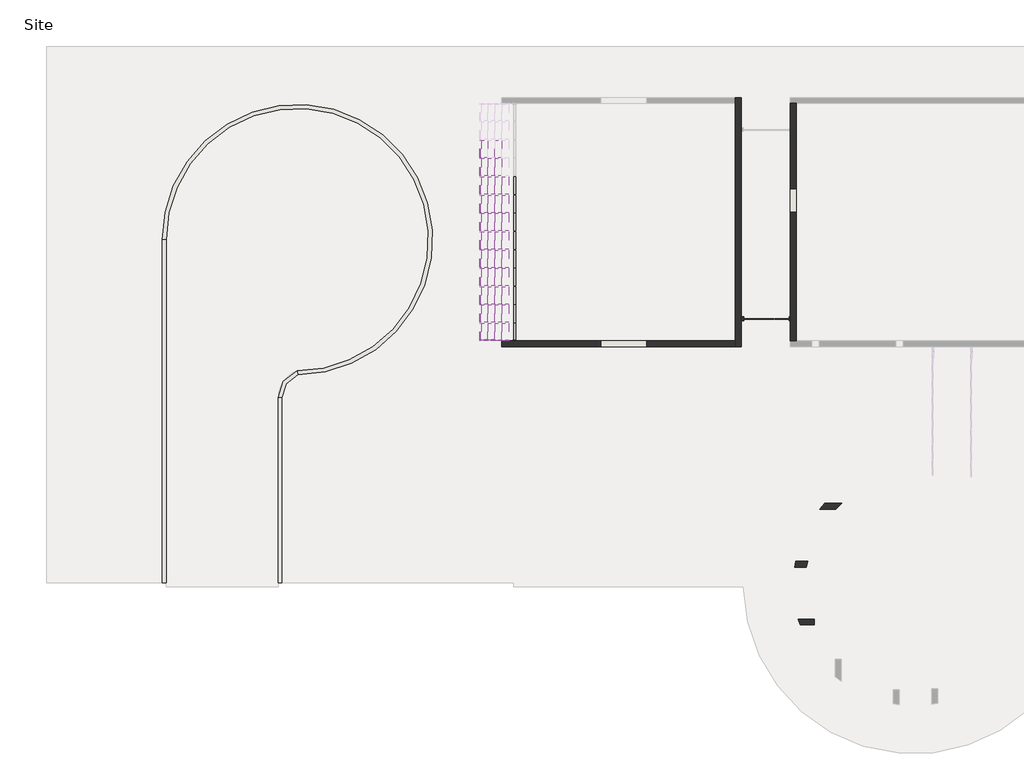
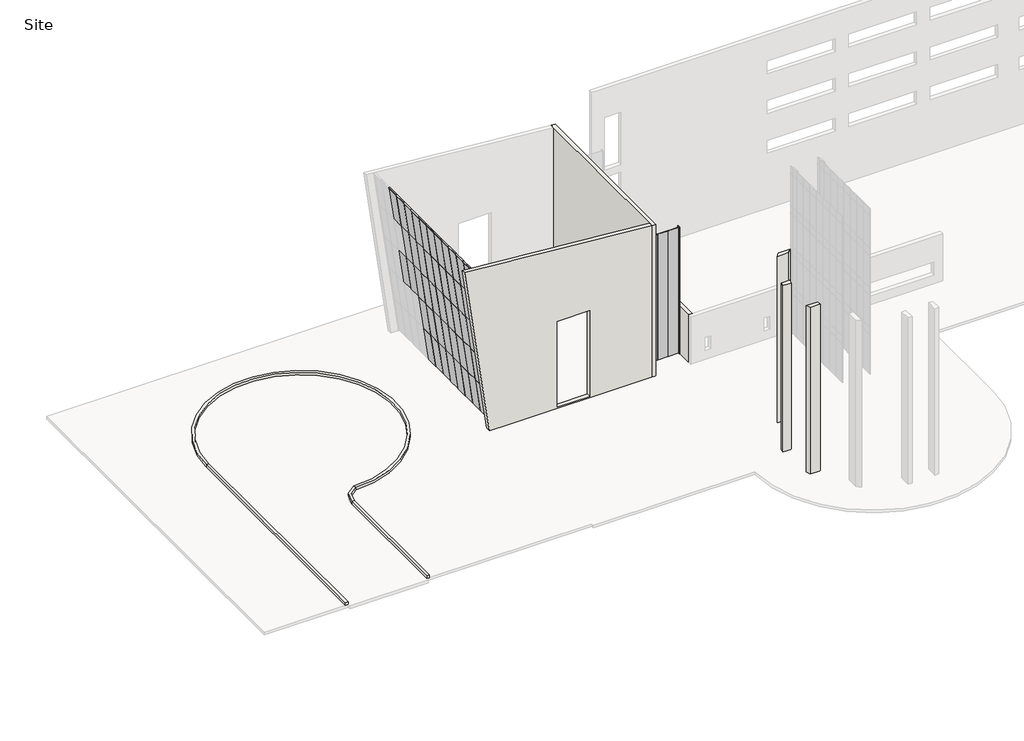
# One storey, part 1 of 4: 53 plates, 16 members, 12 walls.
"""IFC4 building model written with IfcOpenShell, lengths in millimetres."""

from ifc_helpers import new_model, si_unit, point, frame, frame_2d, origin, place, context, project, spatial, polyline, circle_curve, trimmed, segment, composite_curve, outline, extrude, faceted_brep, transform, mapped, element, save
from components import member_f8a9089e, member_5e02c13a, member_50cd645d, member_5d333a65, system_panel_glazed_21f2c726, system_panel_glazed_1400d148, system_panel_glazed_f91df05e, system_panel_glazed_78b5b18d

model = new_model("IFC4")

# Units and contexts
model_context = context("Model", 3, world=origin())
ifc_project = project(units=[si_unit("LENGTHUNIT", "METRE", prefix="MILLI")], contexts=[model_context])

# Site, building, storey
site = spatial("IfcSite", under=ifc_project)
building = spatial("IfcBuilding", under=site)
storey = spatial("IfcBuildingStorey", under=building, Name="Site", Elevation=-152.4)

# Members
placement = place(None, origin())
member_shape = member_f8a9089e(model_context)
element("IfcMember", 1, ObjectType="Rectangular Mullion1 : 2.5\" x 5\" rectangular", at=placement, inside=storey, context=model_context, shape_type="MappedRepresentation", body=[
    mapped(member_shape, transform((-27908.8595656, 38681.824389, 19574.3667708), x_axis=(-0.13917310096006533, 0.0, 0.9902680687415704), y_axis=(-0.9902680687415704, 0.0, -0.13917310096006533), z_axis=(0.0, -1.0, 0.0))),
])
member_2_shape = member_5e02c13a(model_context)
element("IfcMember", 2, ObjectType="Rectangular Mullion1 : 2.5\" x 5\" rectangular", at=placement, inside=storey, context=model_context, shape_type="MappedRepresentation", body=[
    mapped(member_2_shape, transform((-27908.8595656, 53088.9974658, 19574.3667708), x_axis=(-0.13917310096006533, 0.0, 0.9902680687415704), y_axis=(-0.9902680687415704, 0.0, -0.13917310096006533), z_axis=(0.0, -1.0, 0.0))),
])
element("IfcMember", 3, ObjectType="Rectangular Mullion1 : 2.5\" x 5\" rectangular", at=placement, inside=storey, context=model_context, shape_type="MappedRepresentation", body=[
    mapped(member_2_shape, transform((-27908.8595656, 51641.9301581, 19574.3667708), x_axis=(-0.13917310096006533, 0.0, 0.9902680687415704), y_axis=(-0.9902680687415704, 0.0, -0.13917310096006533), z_axis=(0.0, -1.0, 0.0))),
])
element("IfcMember", 4, ObjectType="Rectangular Mullion1 : 2.5\" x 5\" rectangular", at=placement, inside=storey, context=model_context, shape_type="MappedRepresentation", body=[
    mapped(member_2_shape, transform((-27908.8595656, 50194.8628505, 19574.3667708), x_axis=(-0.13917310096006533, 0.0, 0.9902680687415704), y_axis=(-0.9902680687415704, 0.0, -0.13917310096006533), z_axis=(0.0, -1.0, 0.0))),
])
element("IfcMember", 5, ObjectType="Rectangular Mullion1 : 2.5\" x 5\" rectangular", at=placement, inside=storey, context=model_context, shape_type="MappedRepresentation", body=[
    mapped(member_2_shape, transform((-27908.8595656, 48747.7955428, 19574.3667708), x_axis=(-0.13917310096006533, 0.0, 0.9902680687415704), y_axis=(-0.9902680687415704, 0.0, -0.13917310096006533), z_axis=(0.0, -1.0, 0.0))),
])
element("IfcMember", 6, ObjectType="Rectangular Mullion1 : 2.5\" x 5\" rectangular", at=placement, inside=storey, context=model_context, shape_type="MappedRepresentation", body=[
    mapped(member_2_shape, transform((-27908.8595656, 47300.7282352, 19574.3667708), x_axis=(-0.13917310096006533, 0.0, 0.9902680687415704), y_axis=(-0.9902680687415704, 0.0, -0.13917310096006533), z_axis=(0.0, -1.0, 0.0))),
])
element("IfcMember", 7, ObjectType="Rectangular Mullion1 : 2.5\" x 5\" rectangular", at=placement, inside=storey, context=model_context, shape_type="MappedRepresentation", body=[
    mapped(member_2_shape, transform((-27908.8595656, 45853.6609275, 19574.3667708), x_axis=(-0.13917310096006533, 0.0, 0.9902680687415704), y_axis=(-0.9902680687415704, 0.0, -0.13917310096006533), z_axis=(0.0, -1.0, 0.0))),
])
element("IfcMember", 8, ObjectType="Rectangular Mullion1 : 2.5\" x 5\" rectangular", at=placement, inside=storey, context=model_context, shape_type="MappedRepresentation", body=[
    mapped(member_2_shape, transform((-27908.8595656, 44406.5936199, 19574.3667708), x_axis=(-0.13917310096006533, 0.0, 0.9902680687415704), y_axis=(-0.9902680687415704, 0.0, -0.13917310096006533), z_axis=(0.0, -1.0, 0.0))),
])
element("IfcMember", 9, ObjectType="Rectangular Mullion1 : 2.5\" x 5\" rectangular", at=placement, inside=storey, context=model_context, shape_type="MappedRepresentation", body=[
    mapped(member_2_shape, transform((-27908.8595656, 42959.5263122, 19574.3667708), x_axis=(-0.13917310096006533, 0.0, 0.9902680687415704), y_axis=(-0.9902680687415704, 0.0, -0.13917310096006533), z_axis=(0.0, -1.0, 0.0))),
])
element("IfcMember", 10, ObjectType="Rectangular Mullion1 : 2.5\" x 5\" rectangular", at=placement, inside=storey, context=model_context, shape_type="MappedRepresentation", body=[
    mapped(member_2_shape, transform((-27908.8595656, 41512.4590046, 19574.3667708), x_axis=(-0.13917310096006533, 0.0, 0.9902680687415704), y_axis=(-0.9902680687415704, 0.0, -0.13917310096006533), z_axis=(0.0, -1.0, 0.0))),
])
element("IfcMember", 11, ObjectType="Rectangular Mullion1 : 2.5\" x 5\" rectangular", at=placement, inside=storey, context=model_context, shape_type="MappedRepresentation", body=[
    mapped(member_2_shape, transform((-27908.8595656, 40065.391697, 19574.3667708), x_axis=(-0.13917310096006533, 0.0, 0.9902680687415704), y_axis=(-0.9902680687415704, 0.0, -0.13917310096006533), z_axis=(0.0, -1.0, 0.0))),
])
member_3_shape = member_50cd645d(model_context)
element("IfcMember", 12, ObjectType="Rectangular Mullion1 : 2.5\" x 5\" rectangular", at=placement, inside=storey, context=model_context, shape_type="MappedRepresentation", body=[
    mapped(member_3_shape, transform((-25136.1948919, 38618.324389, -154.1674984), x_axis=(0.0, -1.0, 0.0), y_axis=(-0.99026806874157, 0.0, -0.1391731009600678), z_axis=(0.1391731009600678, 0.0, -0.99026806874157))),
])
member_4_shape = member_5d333a65(model_context)
element("IfcMember", 13, ObjectType="Rectangular Mullion1 : 2.5\" x 5\" rectangular", at=placement, inside=storey, context=model_context, shape_type="MappedRepresentation", body=[
    mapped(member_4_shape, transform((-25693.3790742, 38618.324389, 3810.4039622), x_axis=(0.0, -1.0, 0.0), y_axis=(-0.9902680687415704, 0.0, -0.13917310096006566), z_axis=(0.13917310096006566, 0.0, -0.9902680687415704))),
])
element("IfcMember", 14, ObjectType="Rectangular Mullion1 : 2.5\" x 5\" rectangular", at=placement, inside=storey, context=model_context, shape_type="MappedRepresentation", body=[
    mapped(member_4_shape, transform((-26246.1445106, 38618.324389, 7743.5344115), x_axis=(0.0, -1.0, 0.0), y_axis=(-0.9902680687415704, 0.0, -0.13917310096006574), z_axis=(0.13917310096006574, 0.0, -0.9902680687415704))),
])
element("IfcMember", 15, ObjectType="Rectangular Mullion1 : 2.5\" x 5\" rectangular", at=placement, inside=storey, context=model_context, shape_type="MappedRepresentation", body=[
    mapped(member_4_shape, transform((-26798.9099469, 38618.324389, 11676.6648609), x_axis=(0.0, -1.0, 0.0), y_axis=(-0.9902680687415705, 0.0, -0.13917310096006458), z_axis=(0.13917310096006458, 0.0, -0.9902680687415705))),
])
element("IfcMember", 16, ObjectType="Rectangular Mullion1 : 2.5\" x 5\" rectangular", at=placement, inside=storey, context=model_context, shape_type="MappedRepresentation", body=[
    mapped(member_3_shape, transform((-27351.6753833, 38618.324389, 15609.7953102), x_axis=(0.0, -1.0, 0.0), y_axis=(-0.9902680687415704, 0.0, -0.13917310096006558), z_axis=(0.13917310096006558, 0.0, -0.9902680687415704))),
])

# Plates
system_panel_glazed_shape = system_panel_glazed_21f2c726(model_context)
element("IfcPlate", 17, ObjectType="System Panel : Glazed", at=placement, inside=storey, context=model_context, shape_type="MappedRepresentation", body=[
    mapped(system_panel_glazed_shape, transform((-4114.5553134, 40372.511889, -88.9), x_axis=(-1.0, 0.0, 0.0), y_axis=(0.0, -1.0, 0.0), z_axis=(0.0, 0.0, 1.0))),
])
element("IfcPlate", 18, ObjectType="System Panel : Glazed", at=placement, inside=storey, context=model_context, shape_type="MappedRepresentation", body=[
    mapped(system_panel_glazed_shape, transform((-6487.0857008, 40372.511889, -88.9), x_axis=(-1.0, 0.0, 0.0), y_axis=(0.0, -1.0, 0.0), z_axis=(0.0, 0.0, 1.0))),
])
system_panel_glazed_2_shape = system_panel_glazed_1400d148(model_context)
element("IfcPlate", 19, ObjectType="System Panel : Glazed", at=placement, inside=storey, context=model_context, shape_type="MappedRepresentation", body=[
    mapped(system_panel_glazed_2_shape, transform((-5300.8205071, 40372.511889, -88.9), x_axis=(-1.0, 0.0, 0.0), y_axis=(0.0, -1.0, 0.0), z_axis=(0.0, 0.0, 1.0))),
])
system_panel_glazed_3_shape = system_panel_glazed_f91df05e(model_context)
element("IfcPlate", 20, ObjectType="System Panel : Glazed", at=placement, inside=storey, context=model_context, shape_type="MappedRepresentation", body=[
    mapped(system_panel_glazed_3_shape, transform((-25145.0323838, 39341.858043, -91.285476), x_axis=(0.0, -1.0, 0.0), y_axis=(0.9902680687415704, 0.0, 0.13917310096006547), z_axis=(-0.13917310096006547, 0.0, 0.9902680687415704))),
])
element("IfcPlate", 21, ObjectType="System Panel : Glazed", at=placement, inside=storey, context=model_context, shape_type="MappedRepresentation", body=[
    mapped(system_panel_glazed_3_shape, transform((-25697.7978202, 39341.858043, 3841.8449733), x_axis=(0.0, -1.0, 0.0), y_axis=(0.9902680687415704, 0.0, 0.13917310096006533), z_axis=(-0.13917310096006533, 0.0, 0.9902680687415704))),
])
element("IfcPlate", 22, ObjectType="System Panel : Glazed", at=placement, inside=storey, context=model_context, shape_type="MappedRepresentation", body=[
    mapped(system_panel_glazed_3_shape, transform((-26250.5632565, 39341.858043, 7774.9754227), x_axis=(0.0, -1.0, 0.0), y_axis=(0.9902680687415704, 0.0, 0.13917310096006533), z_axis=(-0.13917310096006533, 0.0, 0.9902680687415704))),
])
element("IfcPlate", 23, ObjectType="System Panel : Glazed", at=placement, inside=storey, context=model_context, shape_type="MappedRepresentation", body=[
    mapped(system_panel_glazed_3_shape, transform((-26803.3286929, 39341.858043, 11708.105872), x_axis=(0.0, -1.0, 0.0), y_axis=(0.9902680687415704, 0.0, 0.13917310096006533), z_axis=(-0.13917310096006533, 0.0, 0.9902680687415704))),
])
element("IfcPlate", 24, ObjectType="System Panel : Glazed", at=placement, inside=storey, context=model_context, shape_type="MappedRepresentation", body=[
    mapped(system_panel_glazed_3_shape, transform((-27356.0941292, 39341.858043, 15641.2363214), x_axis=(0.0, -1.0, 0.0), y_axis=(0.9902680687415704, 0.0, 0.13917310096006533), z_axis=(-0.13917310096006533, 0.0, 0.9902680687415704))),
])
system_panel_glazed_4_shape = system_panel_glazed_78b5b18d(model_context)
element("IfcPlate", 25, ObjectType="System Panel : Glazed", at=placement, inside=storey, context=model_context, shape_type="MappedRepresentation", body=[
    mapped(system_panel_glazed_4_shape, transform((-25145.0323838, 50886.6465043, -91.285476), x_axis=(0.0, -1.0, 0.0), y_axis=(0.9902680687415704, 0.0, 0.13917310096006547), z_axis=(-0.13917310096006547, 0.0, 0.9902680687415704))),
])
element("IfcPlate", 26, ObjectType="System Panel : Glazed", at=placement, inside=storey, context=model_context, shape_type="MappedRepresentation", body=[
    mapped(system_panel_glazed_4_shape, transform((-25145.0323838, 49439.5791967, -91.285476), x_axis=(0.0, -1.0, 0.0), y_axis=(0.9902680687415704, 0.0, 0.13917310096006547), z_axis=(-0.13917310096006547, 0.0, 0.9902680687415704))),
])
element("IfcPlate", 27, ObjectType="System Panel : Glazed", at=placement, inside=storey, context=model_context, shape_type="MappedRepresentation", body=[
    mapped(system_panel_glazed_4_shape, transform((-25145.0323838, 47992.511889, -91.285476), x_axis=(0.0, -1.0, 0.0), y_axis=(0.9902680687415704, 0.0, 0.13917310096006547), z_axis=(-0.13917310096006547, 0.0, 0.9902680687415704))),
])
element("IfcPlate", 28, ObjectType="System Panel : Glazed", at=placement, inside=storey, context=model_context, shape_type="MappedRepresentation", body=[
    mapped(system_panel_glazed_4_shape, transform((-25145.0323838, 46545.4445814, -91.285476), x_axis=(0.0, -1.0, 0.0), y_axis=(0.9902680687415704, 0.0, 0.13917310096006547), z_axis=(-0.13917310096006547, 0.0, 0.9902680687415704))),
])
element("IfcPlate", 29, ObjectType="System Panel : Glazed", at=placement, inside=storey, context=model_context, shape_type="MappedRepresentation", body=[
    mapped(system_panel_glazed_4_shape, transform((-25145.0323838, 45098.3772737, -91.285476), x_axis=(0.0, -1.0, 0.0), y_axis=(0.9902680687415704, 0.0, 0.13917310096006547), z_axis=(-0.13917310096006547, 0.0, 0.9902680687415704))),
])
element("IfcPlate", 30, ObjectType="System Panel : Glazed", at=placement, inside=storey, context=model_context, shape_type="MappedRepresentation", body=[
    mapped(system_panel_glazed_4_shape, transform((-25145.0323838, 43651.3099661, -91.285476), x_axis=(0.0, -1.0, 0.0), y_axis=(0.9902680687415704, 0.0, 0.13917310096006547), z_axis=(-0.13917310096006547, 0.0, 0.9902680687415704))),
])
element("IfcPlate", 31, ObjectType="System Panel : Glazed", at=placement, inside=storey, context=model_context, shape_type="MappedRepresentation", body=[
    mapped(system_panel_glazed_4_shape, transform((-25145.0323838, 42204.2426584, -91.285476), x_axis=(0.0, -1.0, 0.0), y_axis=(0.9902680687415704, 0.0, 0.13917310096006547), z_axis=(-0.13917310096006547, 0.0, 0.9902680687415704))),
])
element("IfcPlate", 32, ObjectType="System Panel : Glazed", at=placement, inside=storey, context=model_context, shape_type="MappedRepresentation", body=[
    mapped(system_panel_glazed_4_shape, transform((-25145.0323838, 40757.1753508, -91.285476), x_axis=(0.0, -1.0, 0.0), y_axis=(0.9902680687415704, 0.0, 0.13917310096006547), z_axis=(-0.13917310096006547, 0.0, 0.9902680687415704))),
])
element("IfcPlate", 33, ObjectType="System Panel : Glazed", at=placement, inside=storey, context=model_context, shape_type="MappedRepresentation", body=[
    mapped(system_panel_glazed_4_shape, transform((-25697.7978202, 50886.6465043, 3841.8449733), x_axis=(0.0, -1.0, 0.0), y_axis=(0.9902680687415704, 0.0, 0.13917310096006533), z_axis=(-0.13917310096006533, 0.0, 0.9902680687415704))),
])
element("IfcPlate", 34, ObjectType="System Panel : Glazed", at=placement, inside=storey, context=model_context, shape_type="MappedRepresentation", body=[
    mapped(system_panel_glazed_4_shape, transform((-25697.7978202, 49439.5791967, 3841.8449733), x_axis=(0.0, -1.0, 0.0), y_axis=(0.9902680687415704, 0.0, 0.13917310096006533), z_axis=(-0.13917310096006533, 0.0, 0.9902680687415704))),
])
element("IfcPlate", 35, ObjectType="System Panel : Glazed", at=placement, inside=storey, context=model_context, shape_type="MappedRepresentation", body=[
    mapped(system_panel_glazed_4_shape, transform((-25697.7978202, 47992.511889, 3841.8449733), x_axis=(0.0, -1.0, 0.0), y_axis=(0.9902680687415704, 0.0, 0.13917310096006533), z_axis=(-0.13917310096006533, 0.0, 0.9902680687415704))),
])
element("IfcPlate", 36, ObjectType="System Panel : Glazed", at=placement, inside=storey, context=model_context, shape_type="MappedRepresentation", body=[
    mapped(system_panel_glazed_4_shape, transform((-25697.7978202, 46545.4445814, 3841.8449733), x_axis=(0.0, -1.0, 0.0), y_axis=(0.9902680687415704, 0.0, 0.13917310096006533), z_axis=(-0.13917310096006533, 0.0, 0.9902680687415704))),
])
element("IfcPlate", 37, ObjectType="System Panel : Glazed", at=placement, inside=storey, context=model_context, shape_type="MappedRepresentation", body=[
    mapped(system_panel_glazed_4_shape, transform((-25697.7978202, 45098.3772737, 3841.8449733), x_axis=(0.0, -1.0, 0.0), y_axis=(0.9902680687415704, 0.0, 0.13917310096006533), z_axis=(-0.13917310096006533, 0.0, 0.9902680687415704))),
])
element("IfcPlate", 38, ObjectType="System Panel : Glazed", at=placement, inside=storey, context=model_context, shape_type="MappedRepresentation", body=[
    mapped(system_panel_glazed_4_shape, transform((-25697.7978202, 43651.3099661, 3841.8449733), x_axis=(0.0, -1.0, 0.0), y_axis=(0.9902680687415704, 0.0, 0.13917310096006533), z_axis=(-0.13917310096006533, 0.0, 0.9902680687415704))),
])
element("IfcPlate", 39, ObjectType="System Panel : Glazed", at=placement, inside=storey, context=model_context, shape_type="MappedRepresentation", body=[
    mapped(system_panel_glazed_4_shape, transform((-25697.7978202, 42204.2426584, 3841.8449733), x_axis=(0.0, -1.0, 0.0), y_axis=(0.9902680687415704, 0.0, 0.13917310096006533), z_axis=(-0.13917310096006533, 0.0, 0.9902680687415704))),
])
element("IfcPlate", 40, ObjectType="System Panel : Glazed", at=placement, inside=storey, context=model_context, shape_type="MappedRepresentation", body=[
    mapped(system_panel_glazed_4_shape, transform((-25697.7978202, 40757.1753508, 3841.8449733), x_axis=(0.0, -1.0, 0.0), y_axis=(0.9902680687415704, 0.0, 0.13917310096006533), z_axis=(-0.13917310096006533, 0.0, 0.9902680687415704))),
])
element("IfcPlate", 41, ObjectType="System Panel : Glazed", at=placement, inside=storey, context=model_context, shape_type="MappedRepresentation", body=[
    mapped(system_panel_glazed_4_shape, transform((-26250.5632565, 53780.7811196, 7774.9754227), x_axis=(0.0, -1.0, 0.0), y_axis=(0.9902680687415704, 0.0, 0.13917310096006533), z_axis=(-0.13917310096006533, 0.0, 0.9902680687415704))),
])
element("IfcPlate", 42, ObjectType="System Panel : Glazed", at=placement, inside=storey, context=model_context, shape_type="MappedRepresentation", body=[
    mapped(system_panel_glazed_4_shape, transform((-26250.5632565, 52333.7138119, 7774.9754227), x_axis=(0.0, -1.0, 0.0), y_axis=(0.9902680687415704, 0.0, 0.13917310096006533), z_axis=(-0.13917310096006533, 0.0, 0.9902680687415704))),
])
element("IfcPlate", 43, ObjectType="System Panel : Glazed", at=placement, inside=storey, context=model_context, shape_type="MappedRepresentation", body=[
    mapped(system_panel_glazed_4_shape, transform((-26250.5632565, 50886.6465043, 7774.9754227), x_axis=(0.0, -1.0, 0.0), y_axis=(0.9902680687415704, 0.0, 0.13917310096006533), z_axis=(-0.13917310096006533, 0.0, 0.9902680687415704))),
])
element("IfcPlate", 44, ObjectType="System Panel : Glazed", at=placement, inside=storey, context=model_context, shape_type="MappedRepresentation", body=[
    mapped(system_panel_glazed_4_shape, transform((-26250.5632565, 49439.5791967, 7774.9754227), x_axis=(0.0, -1.0, 0.0), y_axis=(0.9902680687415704, 0.0, 0.13917310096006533), z_axis=(-0.13917310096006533, 0.0, 0.9902680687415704))),
])
element("IfcPlate", 45, ObjectType="System Panel : Glazed", at=placement, inside=storey, context=model_context, shape_type="MappedRepresentation", body=[
    mapped(system_panel_glazed_4_shape, transform((-26250.5632565, 47992.511889, 7774.9754227), x_axis=(0.0, -1.0, 0.0), y_axis=(0.9902680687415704, 0.0, 0.13917310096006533), z_axis=(-0.13917310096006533, 0.0, 0.9902680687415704))),
])
element("IfcPlate", 46, ObjectType="System Panel : Glazed", at=placement, inside=storey, context=model_context, shape_type="MappedRepresentation", body=[
    mapped(system_panel_glazed_4_shape, transform((-26250.5632565, 46545.4445814, 7774.9754227), x_axis=(0.0, -1.0, 0.0), y_axis=(0.9902680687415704, 0.0, 0.13917310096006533), z_axis=(-0.13917310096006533, 0.0, 0.9902680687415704))),
])
element("IfcPlate", 47, ObjectType="System Panel : Glazed", at=placement, inside=storey, context=model_context, shape_type="MappedRepresentation", body=[
    mapped(system_panel_glazed_4_shape, transform((-26250.5632565, 45098.3772737, 7774.9754227), x_axis=(0.0, -1.0, 0.0), y_axis=(0.9902680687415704, 0.0, 0.13917310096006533), z_axis=(-0.13917310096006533, 0.0, 0.9902680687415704))),
])
element("IfcPlate", 48, ObjectType="System Panel : Glazed", at=placement, inside=storey, context=model_context, shape_type="MappedRepresentation", body=[
    mapped(system_panel_glazed_4_shape, transform((-26250.5632565, 43651.3099661, 7774.9754227), x_axis=(0.0, -1.0, 0.0), y_axis=(0.9902680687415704, 0.0, 0.13917310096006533), z_axis=(-0.13917310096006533, 0.0, 0.9902680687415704))),
])
element("IfcPlate", 49, ObjectType="System Panel : Glazed", at=placement, inside=storey, context=model_context, shape_type="MappedRepresentation", body=[
    mapped(system_panel_glazed_4_shape, transform((-26250.5632565, 42204.2426584, 7774.9754227), x_axis=(0.0, -1.0, 0.0), y_axis=(0.9902680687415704, 0.0, 0.13917310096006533), z_axis=(-0.13917310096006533, 0.0, 0.9902680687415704))),
])
element("IfcPlate", 50, ObjectType="System Panel : Glazed", at=placement, inside=storey, context=model_context, shape_type="MappedRepresentation", body=[
    mapped(system_panel_glazed_4_shape, transform((-26250.5632565, 40757.1753508, 7774.9754227), x_axis=(0.0, -1.0, 0.0), y_axis=(0.9902680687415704, 0.0, 0.13917310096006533), z_axis=(-0.13917310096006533, 0.0, 0.9902680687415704))),
])
element("IfcPlate", 51, ObjectType="System Panel : Glazed", at=placement, inside=storey, context=model_context, shape_type="MappedRepresentation", body=[
    mapped(system_panel_glazed_4_shape, transform((-26803.3286929, 52333.7138119, 11708.105872), x_axis=(0.0, -1.0, 0.0), y_axis=(0.9902680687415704, 0.0, 0.13917310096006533), z_axis=(-0.13917310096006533, 0.0, 0.9902680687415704))),
])
element("IfcPlate", 52, ObjectType="System Panel : Glazed", at=placement, inside=storey, context=model_context, shape_type="MappedRepresentation", body=[
    mapped(system_panel_glazed_4_shape, transform((-26803.3286929, 50886.6465043, 11708.105872), x_axis=(0.0, -1.0, 0.0), y_axis=(0.9902680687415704, 0.0, 0.13917310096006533), z_axis=(-0.13917310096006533, 0.0, 0.9902680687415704))),
])
element("IfcPlate", 53, ObjectType="System Panel : Glazed", at=placement, inside=storey, context=model_context, shape_type="MappedRepresentation", body=[
    mapped(system_panel_glazed_4_shape, transform((-26803.3286929, 49439.5791967, 11708.105872), x_axis=(0.0, -1.0, 0.0), y_axis=(0.9902680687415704, 0.0, 0.13917310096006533), z_axis=(-0.13917310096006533, 0.0, 0.9902680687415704))),
])
element("IfcPlate", 54, ObjectType="System Panel : Glazed", at=placement, inside=storey, context=model_context, shape_type="MappedRepresentation", body=[
    mapped(system_panel_glazed_4_shape, transform((-26803.3286929, 47992.511889, 11708.105872), x_axis=(0.0, -1.0, 0.0), y_axis=(0.9902680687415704, 0.0, 0.13917310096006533), z_axis=(-0.13917310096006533, 0.0, 0.9902680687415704))),
])
element("IfcPlate", 55, ObjectType="System Panel : Glazed", at=placement, inside=storey, context=model_context, shape_type="MappedRepresentation", body=[
    mapped(system_panel_glazed_4_shape, transform((-26803.3286929, 46545.4445814, 11708.105872), x_axis=(0.0, -1.0, 0.0), y_axis=(0.9902680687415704, 0.0, 0.13917310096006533), z_axis=(-0.13917310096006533, 0.0, 0.9902680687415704))),
])
element("IfcPlate", 56, ObjectType="System Panel : Glazed", at=placement, inside=storey, context=model_context, shape_type="MappedRepresentation", body=[
    mapped(system_panel_glazed_4_shape, transform((-26803.3286929, 45098.3772737, 11708.105872), x_axis=(0.0, -1.0, 0.0), y_axis=(0.9902680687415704, 0.0, 0.13917310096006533), z_axis=(-0.13917310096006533, 0.0, 0.9902680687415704))),
])
element("IfcPlate", 57, ObjectType="System Panel : Glazed", at=placement, inside=storey, context=model_context, shape_type="MappedRepresentation", body=[
    mapped(system_panel_glazed_4_shape, transform((-26803.3286929, 43651.3099661, 11708.105872), x_axis=(0.0, -1.0, 0.0), y_axis=(0.9902680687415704, 0.0, 0.13917310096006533), z_axis=(-0.13917310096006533, 0.0, 0.9902680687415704))),
])
element("IfcPlate", 58, ObjectType="System Panel : Glazed", at=placement, inside=storey, context=model_context, shape_type="MappedRepresentation", body=[
    mapped(system_panel_glazed_4_shape, transform((-26803.3286929, 42204.2426584, 11708.105872), x_axis=(0.0, -1.0, 0.0), y_axis=(0.9902680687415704, 0.0, 0.13917310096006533), z_axis=(-0.13917310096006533, 0.0, 0.9902680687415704))),
])
element("IfcPlate", 59, ObjectType="System Panel : Glazed", at=placement, inside=storey, context=model_context, shape_type="MappedRepresentation", body=[
    mapped(system_panel_glazed_4_shape, transform((-26803.3286929, 40757.1753508, 11708.105872), x_axis=(0.0, -1.0, 0.0), y_axis=(0.9902680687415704, 0.0, 0.13917310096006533), z_axis=(-0.13917310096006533, 0.0, 0.9902680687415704))),
])
element("IfcPlate", 60, ObjectType="System Panel : Glazed", at=placement, inside=storey, context=model_context, shape_type="MappedRepresentation", body=[
    mapped(system_panel_glazed_4_shape, transform((-27356.0941292, 53780.7811196, 15641.2363214), x_axis=(0.0, -1.0, 0.0), y_axis=(0.9902680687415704, 0.0, 0.13917310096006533), z_axis=(-0.13917310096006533, 0.0, 0.9902680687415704))),
])
element("IfcPlate", 61, ObjectType="System Panel : Glazed", at=placement, inside=storey, context=model_context, shape_type="MappedRepresentation", body=[
    mapped(system_panel_glazed_4_shape, transform((-27356.0941292, 52333.7138119, 15641.2363214), x_axis=(0.0, -1.0, 0.0), y_axis=(0.9902680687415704, 0.0, 0.13917310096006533), z_axis=(-0.13917310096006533, 0.0, 0.9902680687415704))),
])
element("IfcPlate", 62, ObjectType="System Panel : Glazed", at=placement, inside=storey, context=model_context, shape_type="MappedRepresentation", body=[
    mapped(system_panel_glazed_4_shape, transform((-27356.0941292, 50886.6465043, 15641.2363214), x_axis=(0.0, -1.0, 0.0), y_axis=(0.9902680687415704, 0.0, 0.13917310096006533), z_axis=(-0.13917310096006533, 0.0, 0.9902680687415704))),
])
element("IfcPlate", 63, ObjectType="System Panel : Glazed", at=placement, inside=storey, context=model_context, shape_type="MappedRepresentation", body=[
    mapped(system_panel_glazed_4_shape, transform((-27356.0941292, 49439.5791967, 15641.2363214), x_axis=(0.0, -1.0, 0.0), y_axis=(0.9902680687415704, 0.0, 0.13917310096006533), z_axis=(-0.13917310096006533, 0.0, 0.9902680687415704))),
])
element("IfcPlate", 64, ObjectType="System Panel : Glazed", at=placement, inside=storey, context=model_context, shape_type="MappedRepresentation", body=[
    mapped(system_panel_glazed_4_shape, transform((-27356.0941292, 47992.511889, 15641.2363214), x_axis=(0.0, -1.0, 0.0), y_axis=(0.9902680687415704, 0.0, 0.13917310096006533), z_axis=(-0.13917310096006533, 0.0, 0.9902680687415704))),
])
element("IfcPlate", 65, ObjectType="System Panel : Glazed", at=placement, inside=storey, context=model_context, shape_type="MappedRepresentation", body=[
    mapped(system_panel_glazed_4_shape, transform((-27356.0941292, 46545.4445814, 15641.2363214), x_axis=(0.0, -1.0, 0.0), y_axis=(0.9902680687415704, 0.0, 0.13917310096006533), z_axis=(-0.13917310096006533, 0.0, 0.9902680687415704))),
])
element("IfcPlate", 66, ObjectType="System Panel : Glazed", at=placement, inside=storey, context=model_context, shape_type="MappedRepresentation", body=[
    mapped(system_panel_glazed_4_shape, transform((-27356.0941292, 45098.3772737, 15641.2363214), x_axis=(0.0, -1.0, 0.0), y_axis=(0.9902680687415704, 0.0, 0.13917310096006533), z_axis=(-0.13917310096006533, 0.0, 0.9902680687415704))),
])
element("IfcPlate", 67, ObjectType="System Panel : Glazed", at=placement, inside=storey, context=model_context, shape_type="MappedRepresentation", body=[
    mapped(system_panel_glazed_4_shape, transform((-27356.0941292, 43651.3099661, 15641.2363214), x_axis=(0.0, -1.0, 0.0), y_axis=(0.9902680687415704, 0.0, 0.13917310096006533), z_axis=(-0.13917310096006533, 0.0, 0.9902680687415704))),
])
element("IfcPlate", 68, ObjectType="System Panel : Glazed", at=placement, inside=storey, context=model_context, shape_type="MappedRepresentation", body=[
    mapped(system_panel_glazed_4_shape, transform((-27356.0941292, 42204.2426584, 15641.2363214), x_axis=(0.0, -1.0, 0.0), y_axis=(0.9902680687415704, 0.0, 0.13917310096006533), z_axis=(-0.13917310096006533, 0.0, 0.9902680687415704))),
])
element("IfcPlate", 69, ObjectType="System Panel : Glazed", at=placement, inside=storey, context=model_context, shape_type="MappedRepresentation", body=[
    mapped(system_panel_glazed_4_shape, transform((-27356.0941292, 40757.1753508, 15641.2363214), x_axis=(0.0, -1.0, 0.0), y_axis=(0.9902680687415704, 0.0, 0.13917310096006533), z_axis=(-0.13917310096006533, 0.0, 0.9902680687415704))),
])

# Walls
element("IfcWall", 70, ObjectType="Generic - 12\"", at=placement, inside=storey, context=model_context, shape_type="SweptSolid", body=[
    extrude(outline(polyline([(-52722.4307976, 46620.911889), (-52722.4307976, 19493.711889), (-53027.2307976, 19493.711889), (-53027.2307976, 46620.911889), (-52722.4307976, 46620.911889)])), frame((0.0, 0.0, -152.4), z_axis=(0.0, 0.0, 1.0), x_axis=(1.0, 0.0, 0.0)), (0.0, 0.0, 1.0), 304.8),
])
element("IfcWall", 71, ObjectType="Generic - 12\"", at=placement, inside=storey, context=model_context, shape_type="SweptSolid", body=[
    extrude(outline(composite_curve([segment(polyline([(-42332.6379779, 35952.9450339), (-42384.6461103, 36257.743054)]), True, "CONTINUOUS"), segment(trimmed(circle_curve(frame_2d((-42359.2307976, 46620.911889)), 10363.2), [point((-42384.6461103, 36257.743054))], [point((-52722.4307976, 46620.911889))], True, "CARTESIAN"), True, "CONTINUOUS"), segment(polyline([(-52722.4307976, 46620.911889), (-53027.2307976, 46620.911889)]), True, "CONTINUOUS"), segment(trimmed(circle_curve(frame_2d((-42359.2307976, 46620.911889)), 10668.0), [point((-53027.2307976, 46620.911889))], [point((-42332.6379779, 35952.9450339))], False, "CARTESIAN"), True, "CONTINUOUS")], self_intersect=False)), frame((0.0, 0.0, -152.4), z_axis=(0.0, 0.0, 1.0), x_axis=(1.0, 0.0, 0.0)), (0.0, 0.0, 1.0), 304.8),
])
element("IfcWall", 72, ObjectType="Generic - 12\"", at=placement, inside=storey, context=model_context, shape_type="SweptSolid", body=[
    extrude(outline(polyline([(-43578.4307976, 34125.8154666), (-43578.4307976, 19493.711889), (-43883.2307976, 19493.711889), (-43883.2307976, 34122.4704857), (-43578.4307976, 34125.8154666)])), frame((0.0, 0.0, -152.4), z_axis=(0.0, 0.0, 1.0), x_axis=(1.0, 0.0, 0.0)), (0.0, 0.0, 1.0), 304.8),
])
element("IfcWall", 73, ObjectType="Generic - 12\"", at=placement, inside=storey, context=model_context, shape_type="SweptSolid", body=[
    extrude(outline(composite_curve([segment(polyline([(-43578.4307976, 34125.8154666), (-43883.2307976, 34122.4704857)]), True, "CONTINUOUS"), segment(trimmed(circle_curve(frame_2d((-41679.1721267, 34169.1174245)), 2204.5522361), [point((-43883.2307976, 34122.4704857))], [point((-42384.6461103, 36257.743054))], False, "CARTESIAN"), True, "CONTINUOUS"), segment(polyline([(-42384.6461103, 36257.743054), (-42332.6379779, 35952.9450339)]), True, "CONTINUOUS"), segment(trimmed(circle_curve(frame_2d((-41679.1721267, 34169.1174245)), 1899.7522361), [point((-42332.6379779, 35952.9450339))], [point((-43578.4307976, 34125.8154666))], True, "CARTESIAN"), True, "CONTINUOUS")], self_intersect=False)), frame((0.0, 0.0, -152.4), z_axis=(0.0, 0.0, 1.0), x_axis=(1.0, 0.0, 0.0)), (0.0, 0.0, 1.0), 304.8),
])
element("IfcWall", 74, ObjectType="Stone on CMU", at=placement, inside=storey, context=model_context, shape_type="SweptSolid", body=[
    extrude(outline(composite_curve([segment(polyline([(-697.0922024, 25777.9642299), (622.698389, 25777.9642299)]), True, "CONTINUOUS"), segment(trimmed(circle_curve(frame_2d((6332.5692024, 19341.311889)), 8604.25), [point((622.698389, 25777.9642299))], [point((148.6151143, 25323.9392299))], True, "CARTESIAN"), True, "CONTINUOUS"), segment(polyline([(148.6151143, 25323.9392299), (-1087.3231771, 25323.9392299)]), True, "CONTINUOUS"), segment(trimmed(circle_curve(frame_2d((6332.5692024, 19341.311889)), 9531.35), [point((-1087.3231771, 25323.9392299))], [point((-697.0922024, 25777.9642299))], False, "CARTESIAN"), True, "CONTINUOUS")], self_intersect=False)), frame((0.0, 0.0, -152.4), z_axis=(0.0, 0.0, 1.0), x_axis=(1.0, 0.0, 0.0)), (0.0, 0.0, 1.0), 19812.0),
])
element("IfcWall", 75, ObjectType="Stone on CMU", at=placement, inside=storey, context=model_context, shape_type="SweptSolid", body=[
    extrude(outline(composite_curve([segment(polyline([(-2806.1889997, 16633.9642299), (-1519.0200926, 16633.9642299), (-1519.0200926, 16179.9392299), (-2659.2245971, 16179.9392299)]), True, "CONTINUOUS"), segment(trimmed(circle_curve(frame_2d((6332.5692024, 19341.311889)), 9531.35), [point((-2659.2245971, 16179.9392299))], [point((-2806.1889997, 16633.9642299))], False, "CARTESIAN"), True, "CONTINUOUS")], self_intersect=False)), frame((0.0, 0.0, -152.4), z_axis=(0.0, 0.0, 1.0), x_axis=(1.0, 0.0, 0.0)), (0.0, 0.0, 1.0), 19812.0),
])
element("IfcWall", 76, ObjectType="Stone on CMU", at=placement, inside=storey, context=model_context, shape_type="SweptSolid", body=[
    extrude(outline(composite_curve([segment(polyline([(-3014.6070809, 21205.9642299), (-2067.2039916, 21205.9642299)]), True, "CONTINUOUS"), segment(trimmed(circle_curve(frame_2d((6332.5692024, 19341.311889)), 8604.25), [point((-2067.2039916, 21205.9642299))], [point((-2155.2602356, 20751.9392299))], True, "CARTESIAN"), True, "CONTINUOUS"), segment(polyline([(-2155.2602356, 20751.9392299), (-3093.8173443, 20751.9392299)]), True, "CONTINUOUS"), segment(trimmed(circle_curve(frame_2d((6332.5692024, 19341.311889)), 9531.35), [point((-3093.8173443, 20751.9392299))], [point((-3014.6070809, 21205.9642299))], False, "CARTESIAN"), True, "CONTINUOUS")], self_intersect=False)), frame((0.0, 0.0, -152.4), z_axis=(0.0, 0.0, 1.0), x_axis=(1.0, 0.0, 0.0)), (0.0, 0.0, 1.0), 19812.0),
])
element("IfcWall", 77, ObjectType="Stone on CMU", at=placement, inside=storey, context=model_context, shape_type="Brep", body=[
    faceted_brep([(-2965.7977165, 38618.324389, -152.4), (-2965.7977165, 57366.699389, -152.4), (-2965.7977165, 57366.699389, 5486.4), (-2965.7977165, 50621.411889, 5486.4), (-2965.7977165, 48792.611889, 5486.4), (-2965.7977165, 38618.324389, 5486.4), (-2965.7977165, 50621.411889, 0.0), (-2965.7977165, 48792.611889, 0.0), (-2965.7977165, 48792.611889, 2133.6), (-2965.7977165, 50621.411889, 2133.6), (-3419.8227165, 38618.324389, -152.4), (-3419.8227165, 38618.324389, 5486.4), (-3419.8227165, 48792.611889, 5486.4), (-3419.8227165, 50621.411889, 5486.4), (-3419.8227165, 57366.699389, 5486.4), (-3419.8227165, 57366.699389, -152.4), (-3419.8227165, 50621.411889, 0.0), (-3419.8227165, 50621.411889, 2133.6), (-3419.8227165, 48792.611889, 2133.6), (-3419.8227165, 48792.611889, 0.0)], [[[0, 1, 2, 3, 4, 5], [6, 7, 8, 9]], [[10, 11, 12, 13, 14, 15], [16, 17, 18, 19]], [[1, 0, 10, 15]], [[5, 4, 3, 2, 14, 13, 12, 11]], [[0, 5, 11, 10]], [[2, 1, 15, 14]], [[17, 16, 6, 9]], [[18, 17, 9, 8]], [[19, 18, 8, 7]], [[16, 19, 7, 6]]]),
])
element("IfcWall", 78, ObjectType="Stone on CMU", at=placement, inside=storey, context=model_context, shape_type="Brep", body=[
    faceted_brep([(-7761.2557976, 57820.724389, -152.4), (-7761.2557976, 57366.699389, -152.4), (-7761.2557976, 38618.324389, -152.4), (-7761.2557976, 38164.299389, -152.4), (-7761.2557976, 38164.299389, 17898.2153222), (-7761.2557976, 38618.324389, 17898.2153222), (-7761.2557976, 57366.699389, 17898.2153222), (-7761.2557976, 57820.724389, 17898.2153222), (-7307.2307976, 57820.724389, -152.4), (-7307.2307976, 57820.724389, 17860.3799055), (-7307.2307976, 38164.299389, 17860.3799055), (-7307.2307976, 38164.299389, -152.4)], [[[0, 1, 2, 3, 4, 5, 6, 7]], [[8, 9, 10, 11]], [[3, 2, 1, 0, 8, 11]], [[4, 3, 11, 10]], [[0, 7, 9, 8]], [[7, 6, 5, 4, 10, 9]]]),
])
element("IfcWall", 79, ObjectType="Stone on CMU", at=placement, inside=storey, context=model_context, shape_type="SweptSolid", body=[
    extrude(outline(polyline([(-152.4, -26050.8432976), (-152.4, -7761.2557976), (17898.2153222, -7761.2557976), (19654.3186785, -28834.4960734), (-152.4, -26050.8432976)]), holes=[polyline([(10210.8, -14747.8432976), (0.0, -14747.8432976), (0.0, -18405.4432976), (10210.8, -18405.4432976), (10210.8, -14747.8432976)])]), frame((0.0, 38164.299389, 0.0), z_axis=(0.0, 1.0, 0.0), x_axis=(0.0, 0.0, 1.0)), (0.0, 0.0, 1.0), 454.025),
])
element("IfcWall", 80, ObjectType="a_Mtl panel on Mtl stud", at=placement, inside=storey, context=model_context, shape_type="SweptSolid", body=[
    extrude(outline(polyline([(-3497.6102165, 40528.086889), (-3419.8227165, 40528.086889), (-3419.8227165, 40216.936889), (-3497.6102165, 40216.936889), (-3497.6102165, 40528.086889)])), frame((0.0, 0.0, -152.4), z_axis=(0.0, 0.0, 1.0), x_axis=(1.0, 0.0, 0.0)), (0.0, 0.0, 1.0), 15087.6),
])
element("IfcWall", 81, ObjectType="a_Mtl panel on Mtl stud", at=placement, inside=storey, context=model_context, shape_type="SweptSolid", body=[
    extrude(outline(polyline([(-7307.2307976, 40528.086889), (-7104.0307976, 40528.086889), (-7104.0307976, 40216.936889), (-7307.2307976, 40216.936889), (-7307.2307976, 40528.086889)])), frame((0.0, 0.0, -152.4), z_axis=(0.0, 0.0, 1.0), x_axis=(1.0, 0.0, 0.0)), (0.0, 0.0, 1.0), 15087.6),
])

save(model, "model.ifc")
